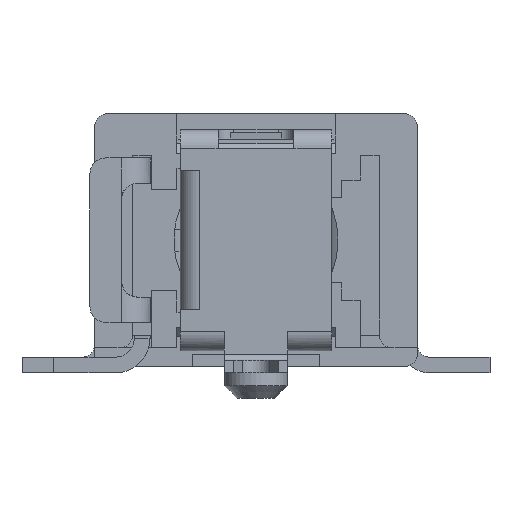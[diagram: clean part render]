
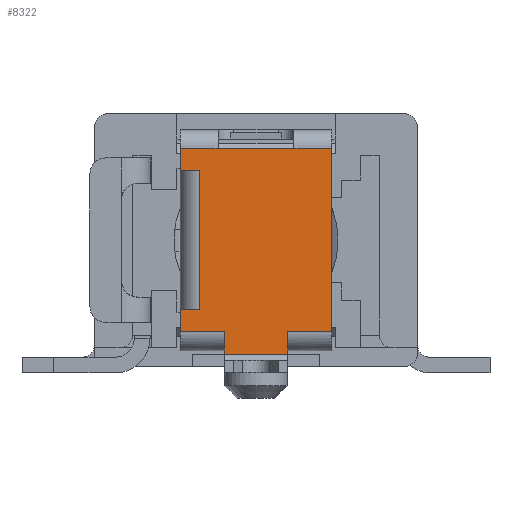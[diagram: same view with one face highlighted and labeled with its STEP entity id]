
A CAD part, left-side view. The second image highlights one B-rep face of the part: STEP entity #8322.
In plain terms, the highlighted planar face has unit normal (-1, 0, 0).
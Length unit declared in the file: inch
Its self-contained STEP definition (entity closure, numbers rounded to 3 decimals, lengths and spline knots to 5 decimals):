
#672=PLANE('',#8972);
#1089=FACE_OUTER_BOUND('',#1515,.T.);
#1515=EDGE_LOOP('',(#7143,#7144,#7145,#7146,#7147,#7148,#7149,#7150,#7151,
#7152,#7153,#7154,#7155,#7156));
#2179=LINE('',#13189,#3085);
#2180=LINE('',#13196,#3086);
#2182=LINE('',#13201,#3088);
#2184=LINE('',#13208,#3090);
#2185=LINE('',#13213,#3091);
#2186=LINE('',#13217,#3092);
#2187=LINE('',#13221,#3093);
#2210=LINE('',#13275,#3116);
#2212=LINE('',#13279,#3118);
#2215=LINE('',#13286,#3121);
#2222=LINE('',#13308,#3128);
#2318=LINE('',#13525,#3224);
#2320=LINE('',#13531,#3226);
#2321=LINE('',#13532,#3227);
#3085=VECTOR('',#10480,39.37008);
#3086=VECTOR('',#10489,39.37008);
#3088=VECTOR('',#10495,39.37008);
#3090=VECTOR('',#10501,39.37008);
#3091=VECTOR('',#10508,39.37008);
#3092=VECTOR('',#10513,39.37008);
#3093=VECTOR('',#10518,39.37008);
#3116=VECTOR('',#10569,39.37008);
#3118=VECTOR('',#10575,39.37008);
#3121=VECTOR('',#10584,39.37008);
#3128=VECTOR('',#10611,39.37008);
#3224=VECTOR('',#10821,39.37008);
#3226=VECTOR('',#10827,39.37008);
#3227=VECTOR('',#10828,39.37008);
#3913=VERTEX_POINT('',#12797);
#3918=VERTEX_POINT('',#12810);
#4049=VERTEX_POINT('',#13186);
#4050=VERTEX_POINT('',#13188);
#4052=VERTEX_POINT('',#13194);
#4053=VERTEX_POINT('',#13199);
#4056=VERTEX_POINT('',#13206);
#4057=VERTEX_POINT('',#13211);
#4058=VERTEX_POINT('',#13216);
#4059=VERTEX_POINT('',#13220);
#4076=VERTEX_POINT('',#13273);
#4082=VERTEX_POINT('',#13307);
#4146=VERTEX_POINT('',#13524);
#4148=VERTEX_POINT('',#13530);
#5041=EDGE_CURVE('',#4050,#4049,#2179,.T.);
#5045=EDGE_CURVE('',#4049,#4052,#2180,.T.);
#5048=EDGE_CURVE('',#4052,#4053,#2182,.T.);
#5051=EDGE_CURVE('',#4053,#4056,#2184,.T.);
#5054=EDGE_CURVE('',#4056,#4057,#2185,.T.);
#5056=EDGE_CURVE('',#4058,#3918,#2186,.T.);
#5058=EDGE_CURVE('',#3913,#4059,#2187,.T.);
#5087=EDGE_CURVE('',#4059,#4076,#2210,.T.);
#5089=EDGE_CURVE('',#3918,#3913,#2212,.T.);
#5093=EDGE_CURVE('',#4057,#4058,#2215,.T.);
#5104=EDGE_CURVE('',#4082,#4050,#2222,.T.);
#5214=EDGE_CURVE('',#4146,#4082,#2318,.T.);
#5217=EDGE_CURVE('',#4076,#4148,#2320,.T.);
#5218=EDGE_CURVE('',#4146,#4148,#2321,.T.);
#7143=ORIENTED_EDGE('',*,*,#5089,.T.);
#7144=ORIENTED_EDGE('',*,*,#5058,.T.);
#7145=ORIENTED_EDGE('',*,*,#5087,.T.);
#7146=ORIENTED_EDGE('',*,*,#5217,.T.);
#7147=ORIENTED_EDGE('',*,*,#5218,.F.);
#7148=ORIENTED_EDGE('',*,*,#5214,.T.);
#7149=ORIENTED_EDGE('',*,*,#5104,.T.);
#7150=ORIENTED_EDGE('',*,*,#5041,.T.);
#7151=ORIENTED_EDGE('',*,*,#5045,.T.);
#7152=ORIENTED_EDGE('',*,*,#5048,.T.);
#7153=ORIENTED_EDGE('',*,*,#5051,.T.);
#7154=ORIENTED_EDGE('',*,*,#5054,.T.);
#7155=ORIENTED_EDGE('',*,*,#5093,.T.);
#7156=ORIENTED_EDGE('',*,*,#5056,.T.);
#8322=ADVANCED_FACE('',(#1089),#672,.T.);
#8972=AXIS2_PLACEMENT_3D('',#13529,#10825,#10826);
#10480=DIRECTION('',(0.,-1.,0.));
#10489=DIRECTION('',(0.,0.,-1.));
#10495=DIRECTION('',(0.,-1.,0.));
#10501=DIRECTION('',(0.,0.,1.));
#10508=DIRECTION('',(0.,-1.,0.));
#10513=DIRECTION('',(0.,1.,0.));
#10518=DIRECTION('',(0.,1.,0.));
#10569=DIRECTION('',(0.,0.,-1.));
#10575=DIRECTION('',(0.,1.,0.));
#10584=DIRECTION('',(0.,0.,1.));
#10611=DIRECTION('',(0.,0.,-1.));
#10821=DIRECTION('',(0.,1.,0.));
#10825=DIRECTION('center_axis',(-1.,0.,0.));
#10826=DIRECTION('ref_axis',(0.,0.,1.));
#10827=DIRECTION('',(0.,-1.,0.));
#10828=DIRECTION('',(0.,0.,1.));
#12797=CARTESIAN_POINT('',(180.97193,94.8968,2.05414));
#12810=CARTESIAN_POINT('',(180.97193,94.84956,2.05414));
#13186=CARTESIAN_POINT('',(180.97193,94.89286,1.93997));
#13188=CARTESIAN_POINT('',(180.97193,94.92042,1.93997));
#13189=CARTESIAN_POINT('',(180.97193,94.92042,1.93997));
#13194=CARTESIAN_POINT('',(180.97193,94.89286,1.92619));
#13196=CARTESIAN_POINT('',(180.97193,94.89286,2.05808));
#13199=CARTESIAN_POINT('',(180.97193,94.85349,1.92619));
#13201=CARTESIAN_POINT('',(180.97193,94.92042,1.92619));
#13206=CARTESIAN_POINT('',(180.97193,94.85349,1.93997));
#13208=CARTESIAN_POINT('',(180.97193,94.85349,2.05808));
#13211=CARTESIAN_POINT('',(180.97193,94.82593,1.93997));
#13213=CARTESIAN_POINT('',(180.97193,94.92042,1.93997));
#13216=CARTESIAN_POINT('',(180.97193,94.82593,2.05414));
#13217=CARTESIAN_POINT('',(180.97193,94.92042,2.05414));
#13220=CARTESIAN_POINT('',(180.97193,94.92042,2.05414));
#13221=CARTESIAN_POINT('',(180.97193,94.92042,2.05414));
#13273=CARTESIAN_POINT('',(180.97193,94.92042,2.04036));
#13275=CARTESIAN_POINT('',(180.97193,94.92042,2.05808));
#13279=CARTESIAN_POINT('',(180.97193,94.92042,2.05414));
#13286=CARTESIAN_POINT('',(180.97193,94.82593,2.05808));
#13307=CARTESIAN_POINT('',(180.97193,94.92042,1.95375));
#13308=CARTESIAN_POINT('',(180.97193,94.92042,2.05808));
#13524=CARTESIAN_POINT('',(180.97193,94.90861,1.95375));
#13525=CARTESIAN_POINT('',(180.97193,94.92042,1.95375));
#13529=CARTESIAN_POINT('Origin',(180.97193,94.92042,2.05808));
#13530=CARTESIAN_POINT('',(180.97193,94.90861,2.04036));
#13531=CARTESIAN_POINT('',(180.97193,94.87318,2.04036));
#13532=CARTESIAN_POINT('',(180.97193,94.90861,2.06005));
